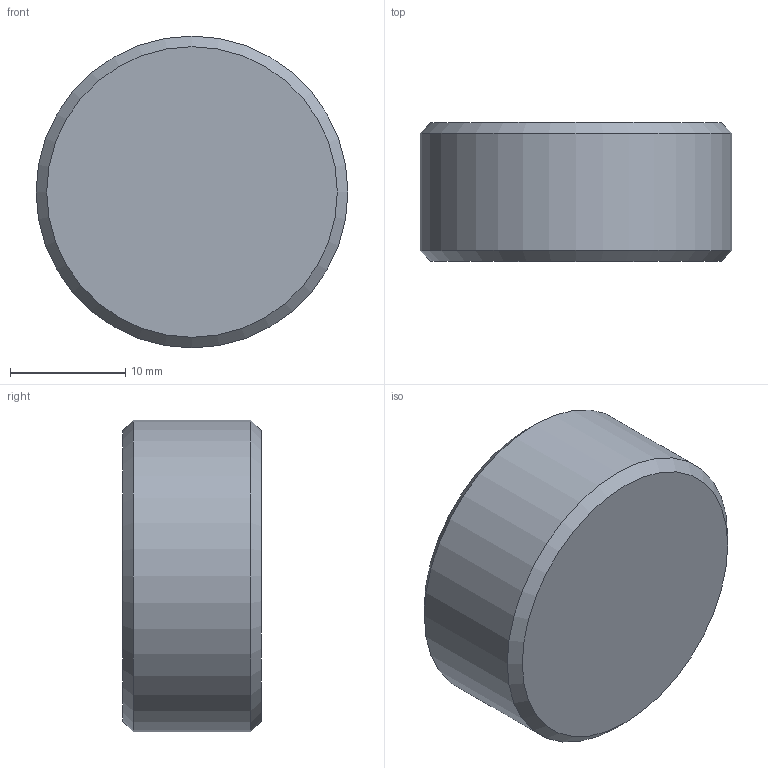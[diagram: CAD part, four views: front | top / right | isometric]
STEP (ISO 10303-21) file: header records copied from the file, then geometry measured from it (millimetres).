
FILE_DESCRIPTION( ( 'STEP AP203' ), '1' );
FILE_NAME( 'C:/Temp/Ganter_Step_05_03_2020/data/3_2/gn252_5/gn_252_5_a/Stainless Steel-Blanking plug GN 252.5-M27x1,5-A.stp', '2020-03-13T05:26:42', ( 'License CC BY-ND 4.0' ), ( 'CADENAS' ), ' ', 'PARTsolutions', ' ' );
FILE_SCHEMA( ( 'CONFIG_CONTROL_DESIGN' ) );
Length unit declared in the file: millimetre
Products named in the file (1): _Stainless Steel-Blanking plug GN 252.5-M27x1,5-A
Bounding box: 27 x 12 x 27 mm (x, y, z)
Volume: 5164.5 mm3; surface area: 2521.1 mm2
Topology: 1 solids, 1 shells, 19 faces, 42 edges, 25 vertices
Faces by surface type: plane 14, cone 3, cylinder 2
Full cylindrical faces by diameter (mm): 14 x1, 27 x1
Entity records: 520 total; most frequent: DIRECTION 86, CARTESIAN_POINT 79, ORIENTED_EDGE 70, EDGE_CURVE 35, AXIS2_PLACEMENT_3D 31, EDGE_LOOP 24, VERTEX_POINT 24, LINE 24
